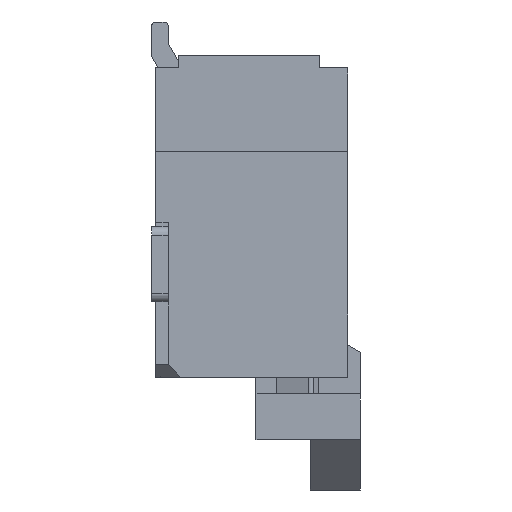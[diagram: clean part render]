
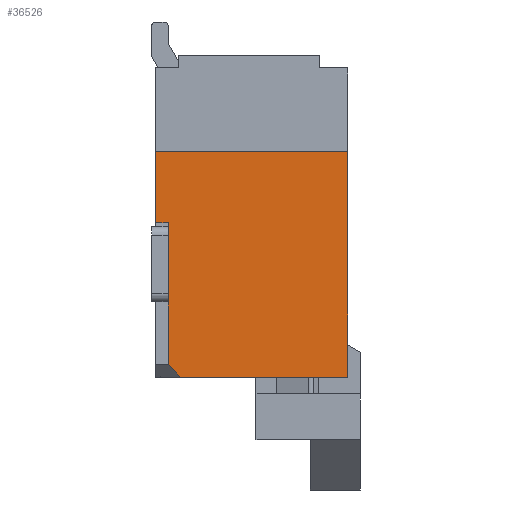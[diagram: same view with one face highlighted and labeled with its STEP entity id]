
A CAD part, left-side view. The second image highlights one B-rep face of the part: STEP entity #36526.
In plain terms, the highlighted planar face has unit normal (-1, 0, 0).
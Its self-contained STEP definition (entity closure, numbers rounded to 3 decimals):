
#9976=DIRECTION('',(0.,0.,-1.));
#9977=VECTOR('',#9976,0.9);
#9978=CARTESIAN_POINT('',(2.2,-0.2,0.45));
#9979=LINE('',#9978,#9977);
#9980=DIRECTION('',(0.,0.,-1.));
#9981=VECTOR('',#9980,0.05);
#9982=CARTESIAN_POINT('',(2.2,-0.2,0.5));
#9983=LINE('',#9982,#9981);
#9984=DIRECTION('',(0.,0.,-1.));
#9985=VECTOR('',#9984,0.85);
#9986=CARTESIAN_POINT('',(2.2,-0.05,1.35));
#9987=LINE('',#9986,#9985);
#9988=DIRECTION('',(0.,1.,0.));
#9989=VECTOR('',#9988,2.3);
#9990=CARTESIAN_POINT('',(2.2,-2.35,1.35));
#9991=LINE('',#9990,#9989);
#9992=DIRECTION('',(0.,0.,1.));
#9993=VECTOR('',#9992,2.7);
#9994=CARTESIAN_POINT('',(2.2,-2.35,-1.35));
#9995=LINE('',#9994,#9993);
#9996=DIRECTION('',(0.,-0.707,-0.707));
#9997=VECTOR('',#9996,0.212);
#9998=CARTESIAN_POINT('',(2.2,-0.2,-1.2));
#9999=LINE('',#9998,#9997);
#10000=DIRECTION('',(0.,0.,-1.));
#10001=VECTOR('',#10000,0.75);
#10002=CARTESIAN_POINT('',(2.2,-0.2,-0.45));
#10003=LINE('',#10002,#10001);
#10008=DIRECTION('',(0.,1.,0.));
#10009=VECTOR('',#10008,0.15);
#10010=CARTESIAN_POINT('',(2.2,-0.2,0.5));
#10011=LINE('',#10010,#10009);
#10317=DIRECTION('',(0.,1.,0.));
#10318=VECTOR('',#10317,2.);
#10319=CARTESIAN_POINT('',(2.2,-2.35,-1.35));
#10320=LINE('',#10319,#10318);
#21103=CARTESIAN_POINT('',(2.2,-0.05,0.5));
#21104=VERTEX_POINT('',#21103);
#21105=CARTESIAN_POINT('',(2.2,-0.05,1.35));
#21106=VERTEX_POINT('',#21105);
#22077=CARTESIAN_POINT('',(2.2,-2.35,1.35));
#22078=VERTEX_POINT('',#22077);
#22079=CARTESIAN_POINT('',(2.2,-2.35,-1.35));
#22080=VERTEX_POINT('',#22079);
#22093=CARTESIAN_POINT('',(2.2,-0.2,0.45));
#22094=CARTESIAN_POINT('',(2.2,-0.2,-0.45));
#22095=VERTEX_POINT('',#22093);
#22096=VERTEX_POINT('',#22094);
#22097=CARTESIAN_POINT('',(2.2,-0.2,-1.2));
#22098=VERTEX_POINT('',#22097);
#22099=CARTESIAN_POINT('',(2.2,-0.35,-1.35));
#22100=VERTEX_POINT('',#22099);
#22101=CARTESIAN_POINT('',(2.2,-0.2,0.5));
#22102=VERTEX_POINT('',#22101);
#36503=CARTESIAN_POINT('',(2.2,-1.2,0.));
#36504=DIRECTION('',(1.,0.,0.));
#36505=DIRECTION('',(0.,0.,1.));
#36506=AXIS2_PLACEMENT_3D('',#36503,#36504,#36505);
#36507=PLANE('',#36506);
#36508=ORIENTED_EDGE('',*,*,#36492,.F.);
#36509=ORIENTED_EDGE('',*,*,#36107,.F.);
#36511=ORIENTED_EDGE('',*,*,#36510,.T.);
#36513=ORIENTED_EDGE('',*,*,#36512,.F.);
#36515=ORIENTED_EDGE('',*,*,#36514,.F.);
#36517=ORIENTED_EDGE('',*,*,#36516,.F.);
#36519=ORIENTED_EDGE('',*,*,#36518,.T.);
#36521=ORIENTED_EDGE('',*,*,#36520,.F.);
#36523=ORIENTED_EDGE('',*,*,#36522,.F.);
#36524=EDGE_LOOP('',(#36508,#36509,#36511,#36513,#36515,#36517,#36519,#36521,
#36523));
#36525=FACE_OUTER_BOUND('',#36524,.F.);
#36526=ADVANCED_FACE('',(#36525),#36507,.F.);
#36107=EDGE_CURVE('',#22102,#22095,#9983,.T.);
#36492=EDGE_CURVE('',#22095,#22096,#9979,.T.);
#36510=EDGE_CURVE('',#22102,#21104,#10011,.T.);
#36512=EDGE_CURVE('',#21106,#21104,#9987,.T.);
#36514=EDGE_CURVE('',#22078,#21106,#9991,.T.);
#36516=EDGE_CURVE('',#22080,#22078,#9995,.T.);
#36518=EDGE_CURVE('',#22080,#22100,#10320,.T.);
#36520=EDGE_CURVE('',#22098,#22100,#9999,.T.);
#36522=EDGE_CURVE('',#22096,#22098,#10003,.T.);
